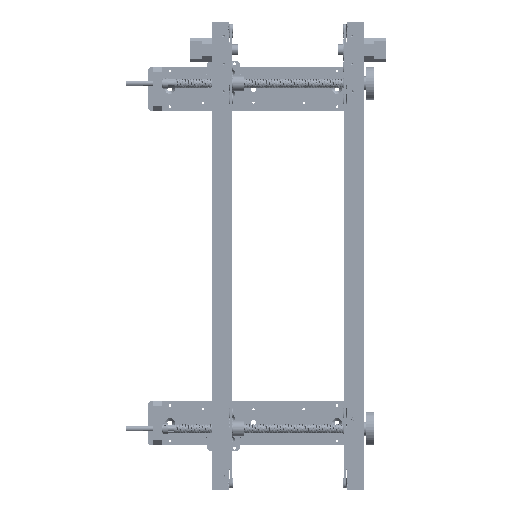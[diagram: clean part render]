
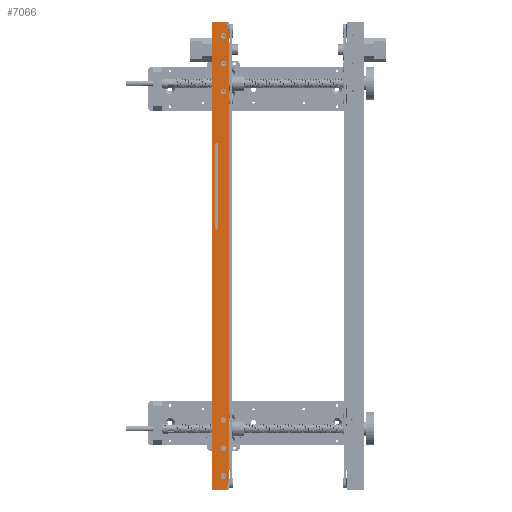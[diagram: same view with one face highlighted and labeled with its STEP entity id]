
A CAD part, top view. The second image highlights one B-rep face of the part: STEP entity #7066.
In plain terms, the highlighted planar face has unit normal (0, 0, 1) as drawn and (0, 1, 0) by its records, which use the part's own axes.
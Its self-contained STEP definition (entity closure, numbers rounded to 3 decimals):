
#5298=PLANE('',#43463);
#5979=FACE_BOUND('',#12089,.T.);
#5980=FACE_BOUND('',#12090,.T.);
#5981=FACE_BOUND('',#12091,.T.);
#5982=FACE_BOUND('',#12092,.T.);
#5983=FACE_BOUND('',#12093,.T.);
#5984=FACE_BOUND('',#12094,.T.);
#5985=FACE_BOUND('',#12095,.T.);
#5986=FACE_BOUND('',#12096,.T.);
#7066=ADVANCED_FACE('',(#5979,#5980,#5981,#5982,#5983,#5984,#5985,#5986),
#5298,.F.);
#12089=EDGE_LOOP('',(#22546,#22547,#22548,#22549));
#12090=EDGE_LOOP('',(#22550,#22551));
#12091=EDGE_LOOP('',(#22552,#22553));
#12092=EDGE_LOOP('',(#22554,#22555));
#12093=EDGE_LOOP('',(#22556,#22557));
#12094=EDGE_LOOP('',(#22558,#22559));
#12095=EDGE_LOOP('',(#22560,#22561));
#12096=EDGE_LOOP('',(#22562,#22563,#22564,#22565,#22566,#22567));
#14600=LINE('',#62949,#17568);
#14603=LINE('',#62958,#17571);
#14604=LINE('',#62960,#17572);
#14610=LINE('',#62973,#17578);
#14613=LINE('',#62979,#17581);
#14616=LINE('',#62986,#17584);
#14618=LINE('',#62996,#17586);
#14619=LINE('',#62997,#17587);
#17568=VECTOR('',#47733,1.);
#17571=VECTOR('',#47744,1.);
#17572=VECTOR('',#47747,1.);
#17578=VECTOR('',#47755,1.);
#17581=VECTOR('',#47760,1.);
#17584=VECTOR('',#47765,1.);
#17586=VECTOR('',#47781,1.);
#17587=VECTOR('',#47782,1.);
#22546=ORIENTED_EDGE('',*,*,#37110,.F.);
#22547=ORIENTED_EDGE('',*,*,#37101,.F.);
#22548=ORIENTED_EDGE('',*,*,#37105,.F.);
#22549=ORIENTED_EDGE('',*,*,#37108,.F.);
#22550=ORIENTED_EDGE('',*,*,#37125,.F.);
#22551=ORIENTED_EDGE('',*,*,#37053,.F.);
#22552=ORIENTED_EDGE('',*,*,#37126,.F.);
#22553=ORIENTED_EDGE('',*,*,#37061,.F.);
#22554=ORIENTED_EDGE('',*,*,#37127,.F.);
#22555=ORIENTED_EDGE('',*,*,#37069,.F.);
#22556=ORIENTED_EDGE('',*,*,#37128,.F.);
#22557=ORIENTED_EDGE('',*,*,#37077,.F.);
#22558=ORIENTED_EDGE('',*,*,#37129,.F.);
#22559=ORIENTED_EDGE('',*,*,#37085,.F.);
#22560=ORIENTED_EDGE('',*,*,#37130,.F.);
#22561=ORIENTED_EDGE('',*,*,#37093,.F.);
#22562=ORIENTED_EDGE('',*,*,#37123,.T.);
#22563=ORIENTED_EDGE('',*,*,#37131,.F.);
#22564=ORIENTED_EDGE('',*,*,#37111,.T.);
#22565=ORIENTED_EDGE('',*,*,#37117,.T.);
#22566=ORIENTED_EDGE('',*,*,#37120,.T.);
#22567=ORIENTED_EDGE('',*,*,#37132,.F.);
#32705=VERTEX_POINT('',#62832);
#32706=VERTEX_POINT('',#62834);
#32713=VERTEX_POINT('',#62850);
#32714=VERTEX_POINT('',#62852);
#32721=VERTEX_POINT('',#62868);
#32722=VERTEX_POINT('',#62870);
#32729=VERTEX_POINT('',#62886);
#32730=VERTEX_POINT('',#62888);
#32737=VERTEX_POINT('',#62904);
#32738=VERTEX_POINT('',#62906);
#32745=VERTEX_POINT('',#62922);
#32746=VERTEX_POINT('',#62924);
#32753=VERTEX_POINT('',#62940);
#32754=VERTEX_POINT('',#62942);
#32756=VERTEX_POINT('',#62948);
#32758=VERTEX_POINT('',#62954);
#32759=VERTEX_POINT('',#62961);
#32760=VERTEX_POINT('',#62962);
#32764=VERTEX_POINT('',#62972);
#32766=VERTEX_POINT('',#62978);
#32769=VERTEX_POINT('',#62985);
#32770=VERTEX_POINT('',#62987);
#37053=EDGE_CURVE('',#32705,#32706,#41806,.T.);
#37061=EDGE_CURVE('',#32713,#32714,#41810,.T.);
#37069=EDGE_CURVE('',#32721,#32722,#41814,.T.);
#37077=EDGE_CURVE('',#32729,#32730,#41818,.T.);
#37085=EDGE_CURVE('',#32737,#32738,#41822,.T.);
#37093=EDGE_CURVE('',#32745,#32746,#41826,.T.);
#37101=EDGE_CURVE('',#32753,#32754,#41830,.T.);
#37105=EDGE_CURVE('',#32756,#32753,#14600,.T.);
#37108=EDGE_CURVE('',#32758,#32756,#41832,.T.);
#37110=EDGE_CURVE('',#32754,#32758,#14603,.T.);
#37111=EDGE_CURVE('',#32759,#32760,#14604,.T.);
#37117=EDGE_CURVE('',#32760,#32764,#14610,.T.);
#37120=EDGE_CURVE('',#32764,#32766,#14613,.T.);
#37123=EDGE_CURVE('',#32770,#32769,#14616,.T.);
#37125=EDGE_CURVE('',#32706,#32705,#41833,.T.);
#37126=EDGE_CURVE('',#32714,#32713,#41834,.T.);
#37127=EDGE_CURVE('',#32722,#32721,#41835,.T.);
#37128=EDGE_CURVE('',#32730,#32729,#41836,.T.);
#37129=EDGE_CURVE('',#32738,#32737,#41837,.T.);
#37130=EDGE_CURVE('',#32746,#32745,#41838,.T.);
#37131=EDGE_CURVE('',#32759,#32769,#14618,.T.);
#37132=EDGE_CURVE('',#32770,#32766,#14619,.T.);
#41806=CIRCLE('',#43410,5.);
#41810=CIRCLE('',#43416,5.);
#41814=CIRCLE('',#43422,5.);
#41818=CIRCLE('',#43428,5.);
#41822=CIRCLE('',#43434,5.);
#41826=CIRCLE('',#43440,5.);
#41830=CIRCLE('',#43446,2.75);
#41832=CIRCLE('',#43450,2.75);
#41833=CIRCLE('',#43457,5.);
#41834=CIRCLE('',#43458,5.);
#41835=CIRCLE('',#43459,5.);
#41836=CIRCLE('',#43460,5.);
#41837=CIRCLE('',#43461,5.);
#41838=CIRCLE('',#43462,5.);
#43410=AXIS2_PLACEMENT_3D('',#62833,#47630,#47631);
#43416=AXIS2_PLACEMENT_3D('',#62851,#47646,#47647);
#43422=AXIS2_PLACEMENT_3D('',#62869,#47662,#47663);
#43428=AXIS2_PLACEMENT_3D('',#62887,#47678,#47679);
#43434=AXIS2_PLACEMENT_3D('',#62905,#47694,#47695);
#43440=AXIS2_PLACEMENT_3D('',#62923,#47710,#47711);
#43446=AXIS2_PLACEMENT_3D('',#62941,#47726,#47727);
#43450=AXIS2_PLACEMENT_3D('',#62955,#47739,#47740);
#43457=AXIS2_PLACEMENT_3D('',#62990,#47769,#47770);
#43458=AXIS2_PLACEMENT_3D('',#62991,#47771,#47772);
#43459=AXIS2_PLACEMENT_3D('',#62992,#47773,#47774);
#43460=AXIS2_PLACEMENT_3D('',#62993,#47775,#47776);
#43461=AXIS2_PLACEMENT_3D('',#62994,#47777,#47778);
#43462=AXIS2_PLACEMENT_3D('',#62995,#47779,#47780);
#43463=AXIS2_PLACEMENT_3D('',#62998,#47783,#47784);
#47630=DIRECTION('',(0.,1.,0.));
#47631=DIRECTION('',(0.,0.,1.));
#47646=DIRECTION('',(0.,1.,0.));
#47647=DIRECTION('',(0.,0.,1.));
#47662=DIRECTION('',(0.,1.,0.));
#47663=DIRECTION('',(0.,0.,1.));
#47678=DIRECTION('',(0.,1.,0.));
#47679=DIRECTION('',(0.,0.,1.));
#47694=DIRECTION('',(0.,1.,0.));
#47695=DIRECTION('',(0.,0.,1.));
#47710=DIRECTION('',(0.,1.,0.));
#47711=DIRECTION('',(0.,0.,1.));
#47726=DIRECTION('',(0.,1.,0.));
#47727=DIRECTION('',(0.,0.,1.));
#47733=DIRECTION('',(1.,0.,0.));
#47739=DIRECTION('',(0.,1.,0.));
#47740=DIRECTION('',(0.,0.,1.));
#47744=DIRECTION('',(-1.,0.,0.));
#47747=DIRECTION('',(0.,0.,-1.));
#47755=DIRECTION('',(-1.,0.,0.));
#47760=DIRECTION('',(0.,0.,1.));
#47765=DIRECTION('',(1.,0.,0.));
#47769=DIRECTION('',(0.,1.,0.));
#47770=DIRECTION('',(0.,0.,1.));
#47771=DIRECTION('',(0.,1.,0.));
#47772=DIRECTION('',(0.,0.,1.));
#47773=DIRECTION('',(0.,1.,0.));
#47774=DIRECTION('',(0.,0.,1.));
#47775=DIRECTION('',(0.,1.,0.));
#47776=DIRECTION('',(0.,0.,1.));
#47777=DIRECTION('',(0.,1.,0.));
#47778=DIRECTION('',(0.,0.,1.));
#47779=DIRECTION('',(0.,1.,0.));
#47780=DIRECTION('',(0.,0.,1.));
#47781=DIRECTION('',(-0.959,0.,0.282));
#47782=DIRECTION('',(-0.959,0.,-0.282));
#47783=DIRECTION('',(0.,-1.,0.));
#47784=DIRECTION('',(0.,0.,1.));
#62832=CARTESIAN_POINT('',(-186.133,15.,15.));
#62833=CARTESIAN_POINT('',(-186.133,15.,20.));
#62834=CARTESIAN_POINT('',(-186.133,15.,25.));
#62850=CARTESIAN_POINT('',(-136.133,15.,15.));
#62851=CARTESIAN_POINT('',(-136.133,15.,20.));
#62852=CARTESIAN_POINT('',(-136.133,15.,25.));
#62868=CARTESIAN_POINT('',(-86.133,15.,15.));
#62869=CARTESIAN_POINT('',(-86.133,15.,20.));
#62870=CARTESIAN_POINT('',(-86.133,15.,25.));
#62886=CARTESIAN_POINT('',(503.867,15.,15.));
#62887=CARTESIAN_POINT('',(503.867,15.,20.));
#62888=CARTESIAN_POINT('',(503.867,15.,25.));
#62904=CARTESIAN_POINT('',(553.867,15.,15.));
#62905=CARTESIAN_POINT('',(553.867,15.,20.));
#62906=CARTESIAN_POINT('',(553.867,15.,25.));
#62922=CARTESIAN_POINT('',(603.867,15.,15.));
#62923=CARTESIAN_POINT('',(603.867,15.,20.));
#62924=CARTESIAN_POINT('',(603.867,15.,25.));
#62940=CARTESIAN_POINT('',(408.867,15.,10.75));
#62941=CARTESIAN_POINT('',(408.867,15.,8.));
#62942=CARTESIAN_POINT('',(408.867,15.,5.25));
#62948=CARTESIAN_POINT('',(258.867,15.,10.75));
#62949=CARTESIAN_POINT('',(258.867,15.,10.75));
#62954=CARTESIAN_POINT('',(258.867,15.,5.25));
#62955=CARTESIAN_POINT('',(258.867,15.,8.));
#62958=CARTESIAN_POINT('',(258.867,15.,5.25));
#62960=CARTESIAN_POINT('',(628.867,15.,30.));
#62961=CARTESIAN_POINT('',(628.867,15.,25.));
#62962=CARTESIAN_POINT('',(628.867,15.,0.));
#62972=CARTESIAN_POINT('',(-211.133,15.,0.));
#62973=CARTESIAN_POINT('',(-211.133,15.,0.));
#62978=CARTESIAN_POINT('',(-211.133,15.,25.));
#62979=CARTESIAN_POINT('',(-211.133,15.,30.));
#62985=CARTESIAN_POINT('',(611.867,15.,30.));
#62986=CARTESIAN_POINT('',(-211.133,15.,30.));
#62987=CARTESIAN_POINT('',(-194.133,15.,30.));
#62990=CARTESIAN_POINT('',(-186.133,15.,20.));
#62991=CARTESIAN_POINT('',(-136.133,15.,20.));
#62992=CARTESIAN_POINT('',(-86.133,15.,20.));
#62993=CARTESIAN_POINT('',(503.867,15.,20.));
#62994=CARTESIAN_POINT('',(553.867,15.,20.));
#62995=CARTESIAN_POINT('',(603.867,15.,20.));
#62996=CARTESIAN_POINT('',(611.867,15.,30.));
#62997=CARTESIAN_POINT('',(-194.133,15.,30.));
#62998=CARTESIAN_POINT('',(0.,15.,0.));
